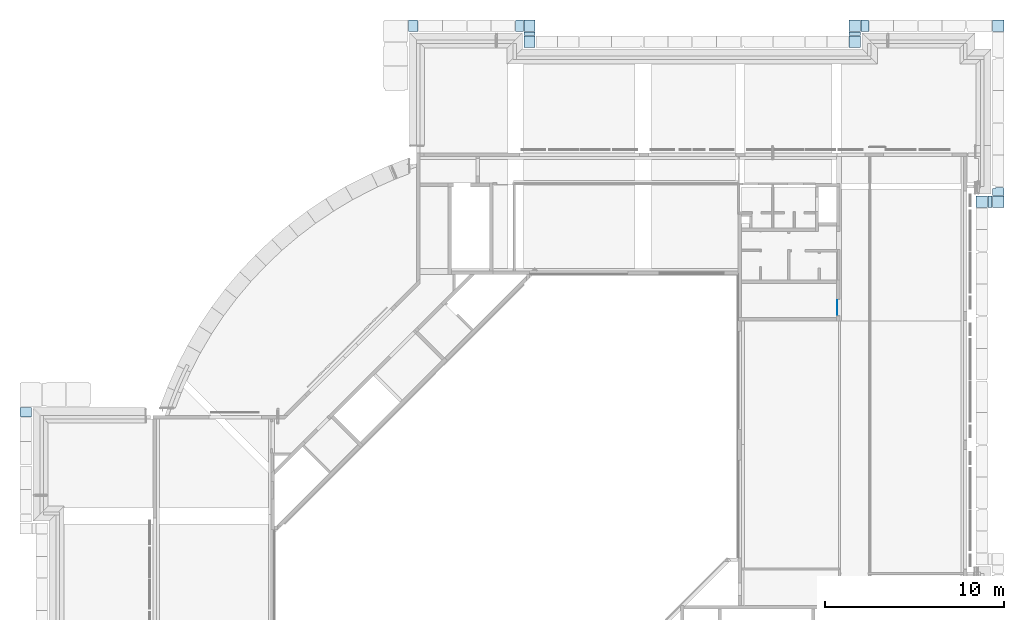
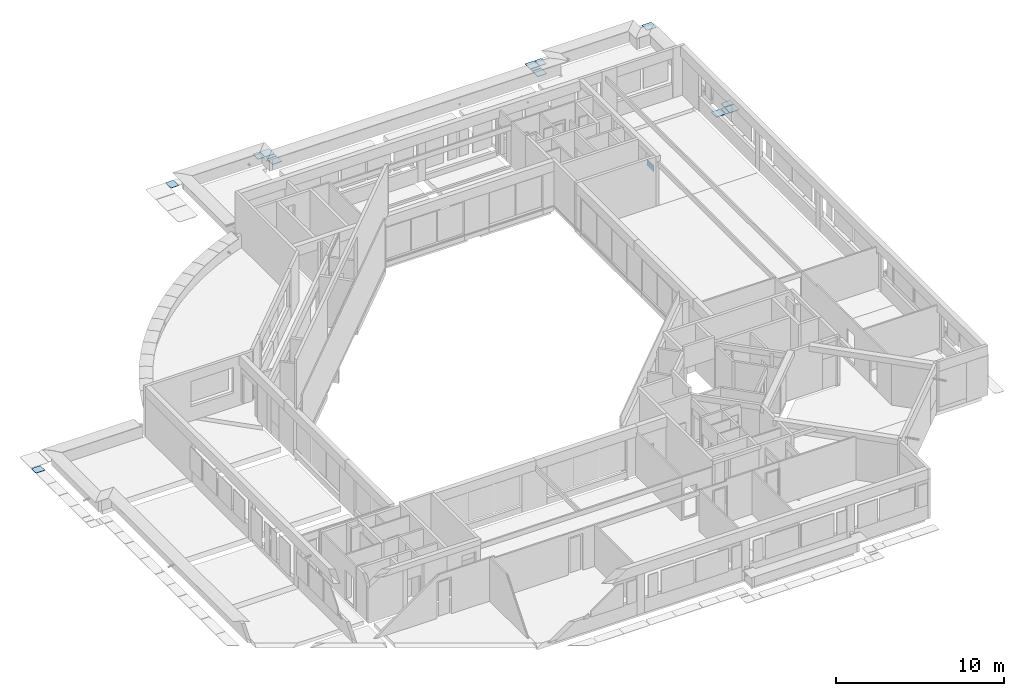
# One storey, part 9 of 38: 15 slabs, 1 plate.
"""IFC4X3_ADD2 building model written with IfcOpenShell, lengths in millimetres."""

from ifc_helpers import new_model, si_unit, direction, frame, frame_2d, origin_with_axes, origin_2d_with_axis, place, context, subcontext, project, spatial, polyline, rectangle, outline, extrude, source, transform, mapped, material, type_object, element, save


model = new_model("IFC4X3_ADD2")

# Units and contexts
model_context = context("Model", 3, precision=1e-05, world=origin_with_axes(), true_north=direction((0.0, 1.0)))
body_context = subcontext(model_context, "Body", "Model", "MODEL_VIEW")
ifc_project = project(units=[si_unit("LENGTHUNIT", "METRE", prefix="MILLI"), si_unit("AREAUNIT", "SQUARE_METRE"), si_unit("VOLUMEUNIT", "CUBIC_METRE"), si_unit("PLANEANGLEUNIT", "RADIAN"), si_unit("TIMEUNIT", "SECOND"), si_unit("MASSUNIT", "GRAM")], contexts=[model_context])

# Site, building, storey
site_placement = place(None, origin_with_axes())
site = spatial("IfcSite", under=ifc_project, at=site_placement, Name="Site", CompositionType="ELEMENT")
building_placement = place(site_placement, origin_with_axes())
building = spatial("IfcBuilding", under=site, at=building_placement, Name="IFC Building Story")
storey_placement = place(building_placement, frame((0.0, 0.0, 10800.0), z_axis=(0.0, 0.0, 1.0), x_axis=(1.0, 0.0, 0.0)))
storey = spatial("IfcBuildingStorey", under=building, at=storey_placement, Name="030", Elevation=10800.0)

# Plate
ifc_material_1 = material(Name="BB_Glas")
shared_shape = source(origin_with_axes(), body_context, "Body", "SweptSolid", [
    extrude(rectangle(XDim=828.000000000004, YDim=454.000000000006, at=origin_2d_with_axis()), frame((0.0, 0.0, -17.0), z_axis=(0.0, 0.0, 1.0), x_axis=(1.0, 0.0, 0.0)), (0.0, 0.0, 1.0), 17.0),
])
plate_placement = place(storey_placement, frame((-7168.0, 36760.0, 2284.0), z_axis=(-1.0, 0.0, 0.0), x_axis=(0.0, 1.0, 0.0)))
element("IfcPlate", 1, at=plate_placement, inside=storey, material=ifc_material_1, Name="BB_10.10_Binnenbeglazing, rechthoekig_GMO:XX_Geen", ObjectType="BB_10.10_Binnenbeglazing, rechthoekig_GMO:XX_Geen", PredefinedType="USERDEFINED", context=body_context, shape_type="MappedRepresentation", body=[
    mapped(shared_shape, transform((0.0, 0.0, 0.0))),
])

# Slabs
ifc_material_2 = material(Name="Steel, Galvanized - looprooster")
slab_type = type_object("IfcSlabType", Name="Steel, Galvanized - looprooster 30", PredefinedType="FLOOR", material=ifc_material_2)
slab_1_placement = place(storey_placement, frame((-52819.9983978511, 30644.99996376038, -350.0), z_axis=(0.0, 0.0, 1.0), x_axis=(1.0, 0.0, 0.0)))
element("IfcSlab", 2, at=slab_1_placement, inside=storey, type_object=slab_type, Name="Floor:GVH - Looprooster 30 mm", ObjectType="Floor:GVH - Looprooster 30 mm", PredefinedType="FLOOR", context=body_context, shape_type="SweptSolid", body=[
    extrude(outline(polyline([(-200.0015258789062, -196.1670316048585), (-200.0015258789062, -144.1672318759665), (-214.9992370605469, -144.1672318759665), (-214.9992370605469, 340.3342634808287), (415.0007629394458, 340.3342634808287), (415.0007629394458, -196.1670316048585), (-200.0015258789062, -196.1670316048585)])), frame((214.9992370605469, 196.1670316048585, 0.0), z_axis=(0.0, 0.0, 1.0), x_axis=(1.0, 0.0, 0.0)), (0.0, 0.0, 1.0), 29.99999999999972),
])
slab_2_placement = place(storey_placement, frame((-31116.50125884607, 52819.99839785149, -350.0), z_axis=(0.0, 0.0, 1.0), x_axis=(0.0, -1.0, 0.0)))
element("IfcSlab", 3, at=slab_2_placement, inside=storey, type_object=slab_type, Name="Floor:GVH - Looprooster 30 mm", ObjectType="Floor:GVH - Looprooster 30 mm", PredefinedType="FLOOR", context=body_context, shape_type="SweptSolid", body=[
    extrude(outline(polyline([(-200.0015258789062, 196.167161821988), (415.0007629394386, 196.167161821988), (415.0007629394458, -340.3341332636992), (-214.9992370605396, -340.3341332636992), (-214.9992370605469, 144.1669714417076), (-200.0015258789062, 144.1669714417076), (-200.0015258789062, 196.167161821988)])), frame((214.9992370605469, 340.3341332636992, 0.0), z_axis=(0.0, 0.0, 1.0), x_axis=(1.0, 0.0, 0.0)), (0.0, 0.0, 1.0), 29.99999999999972),
])
slab_3_placement = place(storey_placement, frame((-24664.500106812, 52819.9983978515, -350.0), z_axis=(0.0, 0.0, 1.0), x_axis=(0.0, -1.0, 0.0)))
element("IfcSlab", 4, at=slab_3_placement, inside=storey, type_object=slab_type, Name="Floor:GVH - Looprooster 30 mm", ObjectType="Floor:GVH - Looprooster 30 mm", PredefinedType="FLOOR", context=body_context, shape_type="SweptSolid", body=[
    extrude(rectangle(XDim=629.9999999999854, YDim=629.9996566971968, at=frame_2d((0.0, 0.0), x_axis=(-1.0, 0.0))), frame((314.9999999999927, 314.9998283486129, 0.0), z_axis=(0.0, 0.0, 1.0), x_axis=(1.0, 0.0, 0.0)), (0.0, 0.0, 1.0), 29.99999999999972),
])
slab_4_placement = place(storey_placement, frame((-24664.500106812, 51919.99839785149, -350.0), z_axis=(0.0, 0.0, 1.0), x_axis=(0.0, -1.0, 0.0)))
element("IfcSlab", 5, at=slab_4_placement, inside=storey, type_object=slab_type, Name="Floor:GVH - Looprooster 30 mm", ObjectType="Floor:GVH - Looprooster 30 mm", PredefinedType="FLOOR", context=body_context, shape_type="SweptSolid", body=[
    extrude(rectangle(XDim=629.9999999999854, YDim=629.999656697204, at=frame_2d((0.0, 0.0), x_axis=(-1.0, 0.0))), frame((314.9999999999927, 314.9998283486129, 0.0), z_axis=(0.0, 0.0, 1.0), x_axis=(1.0, 0.0, 0.0)), (0.0, 0.0, 1.0), 29.99999999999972),
])
slab_5_placement = place(storey_placement, frame((-6495.001258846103, 52819.99839785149, -350.0), z_axis=(0.0, 0.0, 1.0), x_axis=(0.0, -1.0, 0.0)))
element("IfcSlab", 6, at=slab_5_placement, inside=storey, type_object=slab_type, Name="Floor:GVH - Looprooster 30 mm", ObjectType="Floor:GVH - Looprooster 30 mm", PredefinedType="FLOOR", context=body_context, shape_type="SweptSolid", body=[
    extrude(rectangle(XDim=629.9999999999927, YDim=629.9996566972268, at=frame_2d((0.0, 0.0), x_axis=(-1.0, 0.0))), frame((314.9999999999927, 314.9998283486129, 0.0), z_axis=(0.0, 0.0, 1.0), x_axis=(1.0, 0.0, 0.0)), (0.0, 0.0, 1.0), 29.99999999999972),
])
slab_6_placement = place(storey_placement, frame((-6495.000106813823, 51919.9983978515, -350.0), z_axis=(0.0, 0.0, 1.0), x_axis=(0.0, -1.0, 0.0)))
element("IfcSlab", 7, at=slab_6_placement, inside=storey, type_object=slab_type, Name="Floor:GVH - Looprooster 30 mm", ObjectType="Floor:GVH - Looprooster 30 mm", PredefinedType="FLOOR", context=body_context, shape_type="SweptSolid", body=[
    extrude(rectangle(XDim=629.9999999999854, YDim=629.9996566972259, at=frame_2d((0.0, 0.0), x_axis=(-1.0, 0.0))), frame((314.9999999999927, 314.9998283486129, 0.0), z_axis=(0.0, 0.0, 1.0), x_axis=(1.0, 0.0, 0.0)), (0.0, 0.0, 1.0), 29.99999999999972),
])
slab_7_placement = place(storey_placement, frame((589.9987411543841, 42980.0001068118, -350.0), z_axis=(0.0, 0.0, 1.0), x_axis=(0.0, -1.0, 0.0)))
element("IfcSlab", 8, at=slab_7_placement, inside=storey, type_object=slab_type, Name="Floor:GVH - Looprooster 30 mm", ObjectType="Floor:GVH - Looprooster 30 mm", PredefinedType="FLOOR", context=body_context, shape_type="SweptSolid", body=[
    extrude(rectangle(XDim=629.9999999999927, YDim=629.9996566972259, at=frame_2d((0.0, 0.0), x_axis=(-1.0, 0.0))), frame((314.9999999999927, 314.9998283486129, 0.0), z_axis=(0.0, 0.0, 1.0), x_axis=(1.0, 0.0, 0.0)), (0.0, 0.0, 1.0), 29.99999999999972),
])
slab_8_placement = place(storey_placement, frame((1524.998741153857, 42980.01839785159, -350.0), z_axis=(0.0, 0.0, 1.0), x_axis=(0.0, -1.0, 0.0)))
element("IfcSlab", 9, at=slab_8_placement, inside=storey, type_object=slab_type, Name="Floor:GVH - Looprooster 30 mm", ObjectType="Floor:GVH - Looprooster 30 mm", PredefinedType="FLOOR", context=body_context, shape_type="SweptSolid", body=[
    extrude(rectangle(XDim=630.6134735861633, YDim=629.9996566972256, at=frame_2d((0.0, 0.0), x_axis=(-1.0, 0.0))), frame((315.306736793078, 314.9998283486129, 0.0), z_axis=(0.0, 0.0, 1.0), x_axis=(1.0, 0.0, 0.0)), (0.0, 0.0, 1.0), 29.99999999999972),
])
slab_9_placement = place(storey_placement, frame((-24664.50010681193, 51954.9983978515, -350.0), z_axis=(0.0, 0.0, 1.0), x_axis=(1.0, 0.0, 0.0)))
element("IfcSlab", 10, at=slab_9_placement, inside=storey, type_object=slab_type, Name="Floor:GVH - Looprooster 30 mm", ObjectType="Floor:GVH - Looprooster 30 mm", PredefinedType="FLOOR", context=body_context, shape_type="SweptSolid", body=[
    extrude(rectangle(XDim=630.0014381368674, YDim=199.9999999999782, at=origin_2d_with_axis()), frame((315.00071906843, 99.99999999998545, 0.0), z_axis=(0.0, 0.0, 1.0), x_axis=(1.0, 0.0, 0.0)), (0.0, 0.0, 1.0), 29.99999999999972),
])
slab_10_placement = place(storey_placement, frame((-25149.99996376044, 52819.99950666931, -350.0), z_axis=(0.0, 0.0, 1.0), x_axis=(0.0, -1.0, 0.0)))
element("IfcSlab", 11, at=slab_10_placement, inside=storey, type_object=slab_type, Name="Floor:GVH - Looprooster 30 mm", ObjectType="Floor:GVH - Looprooster 30 mm", PredefinedType="FLOOR", context=body_context, shape_type="SweptSolid", body=[
    extrude(outline(polyline([(-214.9997933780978, 280.3292003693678), (415.0007667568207, 280.3292003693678), (415.0007667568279, -166.1695045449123), (-200.0009733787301, -166.1695045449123), (-200.0009733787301, -114.1596958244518), (-214.9997933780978, -114.1596958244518), (-214.9997933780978, 280.3292003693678)])), frame((214.9997933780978, 166.1695045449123, 0.0), z_axis=(0.0, 0.0, 1.0), x_axis=(1.0, 0.0, 0.0)), (0.0, 0.0, 1.0), 29.99999999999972),
])
slab_11_placement = place(storey_placement, frame((-6495.001258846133, 51954.99839785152, -350.0), z_axis=(0.0, 0.0, 1.0), x_axis=(1.0, 0.0, 0.0)))
element("IfcSlab", 12, at=slab_11_placement, inside=storey, type_object=slab_type, Name="Floor:GVH - Looprooster 30 mm", ObjectType="Floor:GVH - Looprooster 30 mm", PredefinedType="FLOOR", context=body_context, shape_type="SweptSolid", body=[
    extrude(rectangle(XDim=629.999656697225, YDim=199.9999999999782, at=origin_2d_with_axis()), frame((314.9998283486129, 99.99999999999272, 0.0), z_axis=(0.0, 0.0, 1.0), x_axis=(1.0, 0.0, 0.0)), (0.0, 0.0, 1.0), 29.99999999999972),
])
slab_12_placement = place(storey_placement, frame((1254.998397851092, 42980.00010681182, -350.0), z_axis=(0.0, 0.0, 1.0), x_axis=(0.0, -1.0, 0.0)))
element("IfcSlab", 13, at=slab_12_placement, inside=storey, type_object=slab_type, Name="Floor:GVH - Looprooster 30 mm", ObjectType="Floor:GVH - Looprooster 30 mm", PredefinedType="FLOOR", context=body_context, shape_type="SweptSolid", body=[
    extrude(rectangle(XDim=629.9996566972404, YDim=235.0003433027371, at=frame_2d((0.0, 0.0), x_axis=(-1.0, 0.0))), frame((314.9998283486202, 117.5001716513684, 0.0), z_axis=(0.0, 0.0, 1.0), x_axis=(1.0, 0.0, 0.0)), (0.0, 0.0, 1.0), 29.99999999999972),
])
slab_13_placement = place(storey_placement, frame((1524.998741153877, 52819.9983978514, -350.0), z_axis=(0.0, 0.0, 1.0), x_axis=(0.0, -1.0, 0.0)))
element("IfcSlab", 14, at=slab_13_placement, inside=storey, type_object=slab_type, Name="Floor:GVH - Looprooster 30 mm", ObjectType="Floor:GVH - Looprooster 30 mm", PredefinedType="FLOOR", context=body_context, shape_type="SweptSolid", body=[
    extrude(rectangle(XDim=629.9999999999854, YDim=629.9996566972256, at=frame_2d((0.0, 0.0), x_axis=(-1.0, 0.0))), frame((314.9999999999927, 314.9998283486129, 0.0), z_axis=(0.0, 0.0, 1.0), x_axis=(1.0, 0.0, 0.0)), (0.0, 0.0, 1.0), 29.99999999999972),
])
slab_14_placement = place(storey_placement, frame((-5826.504006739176, 52819.99839785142, -350.0), z_axis=(0.0, 0.0, 1.0), x_axis=(0.0, -1.0, 0.0)))
element("IfcSlab", 15, at=slab_14_placement, inside=storey, type_object=slab_type, Name="Floor:GVH - Looprooster 30 mm", ObjectType="Floor:GVH - Looprooster 30 mm", PredefinedType="FLOOR", context=body_context, shape_type="SweptSolid", body=[
    extrude(outline(polyline([(-200.0015258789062, 166.1680040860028), (415.0007629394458, 166.1680040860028), (415.0007629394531, -280.3360388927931), (-214.9992370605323, -280.3360388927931), (-214.9992370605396, 114.1680348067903), (-200.0015258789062, 114.1680348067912), (-200.0015258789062, 166.1680040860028)])), frame((214.9992370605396, 280.3360388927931, 0.0), z_axis=(0.0, 0.0, 1.0), x_axis=(1.0, 0.0, 0.0)), (0.0, 0.0, 1.0), 29.99999999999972),
])
slab_15_placement = place(storey_placement, frame((1524.998741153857, 43018.49954988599, -350.0), z_axis=(0.0, 0.0, 1.0), x_axis=(1.0, 0.0, 0.0)))
element("IfcSlab", 16, at=slab_15_placement, inside=storey, type_object=slab_type, Name="Floor:GVH - Looprooster 30 mm", ObjectType="Floor:GVH - Looprooster 30 mm", PredefinedType="FLOOR", context=body_context, shape_type="SweptSolid", body=[
    extrude(outline(polyline([(282.499218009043, 85.62557600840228), (282.499218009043, -308.8749103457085), (-347.5004386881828, -308.8749103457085), (-347.5004386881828, 85.62379456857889), (-202.4983406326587, 85.62379456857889), (-202.4983406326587, 137.6255397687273), (267.4995613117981, 137.6255397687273), (267.4995613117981, 85.62557600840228), (282.499218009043, 85.62557600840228)])), frame((347.5004386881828, 308.8749103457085, 0.0), z_axis=(0.0, 0.0, 1.0), x_axis=(1.0, 0.0, 0.0)), (0.0, 0.0, 1.0), 29.99999999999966),
])

save(model, "model.ifc")
